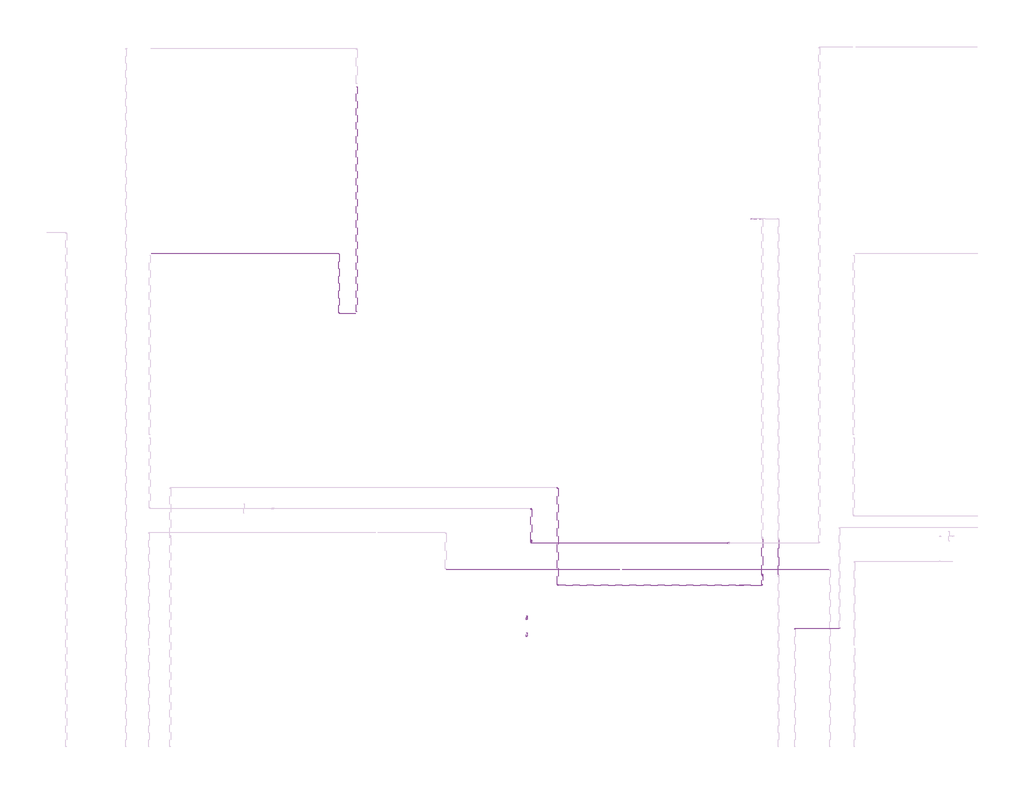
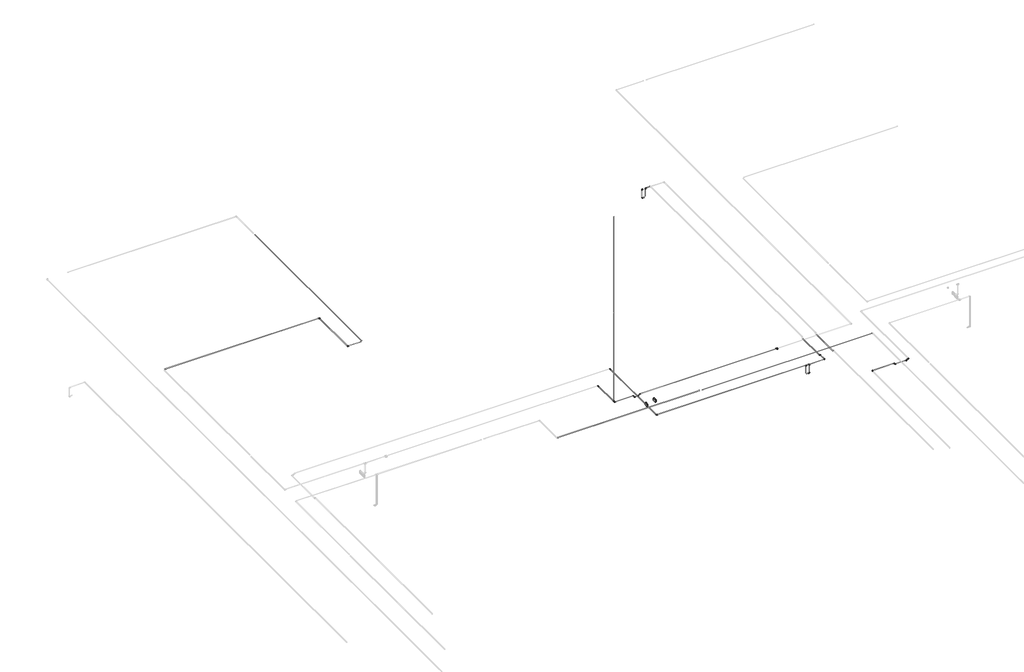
# One storey, part 3 of 6: 35 cable carrier segments, 26 cable carrier fittings, 2 alarms, 2 proxies.
"""IFC4 building model written with IfcOpenShell, lengths in millimetres."""

from ifc_helpers import new_model, si_unit, point, frame, frame_2d, origin, place, context, project, spatial, circle_curve, trimmed, segment, composite_curve, outline, extrude, transform, mapped, element, save
from components import alarm_a2247946, alarm_76d4db1c, electrical_equipment_8cd67339, electrical_equipment_0a952487, cable_carrier_fitting_69f1a801, cable_carrier_fitting_8122f9af, cable_carrier_fitting_8fd13dfc

model = new_model("IFC4")

# Units and contexts
model_context = context("Model", 3, world=origin())
ifc_project = project(units=[si_unit("LENGTHUNIT", "METRE", prefix="MILLI")], contexts=[model_context])

# Site, building, storey
site = spatial("IfcSite", under=ifc_project)
building = spatial("IfcBuilding", under=site)
storey = spatial("IfcBuildingStorey", under=building, Name="Подвальный этаж", Elevation=-3000.0)

# Alarms
placement = place(None, origin())
alarm_shape = alarm_a2247946(model_context)
element("IfcAlarm", 1, ObjectType="RBZ_ИзоляторШлейфа_Рубеж_ИЗ-1_прот.R3(плоскость) : ИЗ-1 прот.R3", at=placement, inside=storey, context=model_context, shape_type="MappedRepresentation", body=[
    mapped(alarm_shape, transform((-16957.3240021, 4133.1922381, -299.95), x_axis=(1.0, 0.0, 0.0), y_axis=(0.0, 1.0, 0.0), z_axis=(0.0, 0.0, 1.0))),
])
alarm_2_shape = alarm_76d4db1c(model_context)
element("IfcAlarm", 2, ObjectType="RBZ_Программное обеспечение_Рубеж_FireSec_ОперативнаяЗадача : ПО ОПС «FireSec» Оперативная задача", at=placement, inside=storey, context=model_context, shape_type="MappedRepresentation", body=[
    mapped(alarm_2_shape, transform((-23156.5757406, 1855.147074, 1041.929482), x_axis=(0.0, 1.0, 0.0), y_axis=(0.0, 0.0, 1.0), z_axis=(1.0, 0.0, 0.0))),
])

# Proxies
electrical_equipment_shape = electrical_equipment_8cd67339(model_context)
element("IfcBuildingElementProxy", 3, Name="RBZ_МодульСопряжения_Рубеж_МС-1(2) : МС-1", ObjectType="RBZ_МодульСопряжения_Рубеж_МС-1(2) : МС-1", at=placement, inside=storey, context=model_context, shape_type="MappedRepresentation", body=[
    mapped(electrical_equipment_shape, transform((-23172.3240021, 1840.019318, 999.7917435), x_axis=(0.0, -1.0, 0.0), y_axis=(1.0, 0.0, 0.0), z_axis=(0.0, 0.0, 1.0))),
])
electrical_equipment_2_shape = electrical_equipment_0a952487(model_context)
element("IfcBuildingElementProxy", 4, Name="RBZ_МодульРелейный_Рубеж_РМ-1(1С;4) _прот.R3 : РМ-4 прот. R3", ObjectType="RBZ_МодульРелейный_Рубеж_РМ-1(1С;4) _прот.R3 : РМ-4 прот. R3", at=placement, inside=storey, context=model_context, shape_type="MappedRepresentation", body=[
    mapped(electrical_equipment_2_shape, transform((-23172.3240021, 1310.269318, 1495.0004776), x_axis=(0.0, -1.0, 0.0), y_axis=(1.0, 0.0, 0.0), z_axis=(0.0, 0.0, 1.0))),
])

# Cable carrier fittings
cable_carrier_fitting_shape = cable_carrier_fitting_69f1a801(model_context)
element("IfcCableCarrierFitting", 5, ObjectType="ADSK_Поворот_Минимальный размер : Неспецифицируемый", at=placement, inside=storey, context=model_context, shape_type="MappedRepresentation", body=[
    mapped(cable_carrier_fitting_shape, transform((-28918.8240021, 13022.1370105, -310.7), x_axis=(0.0, 1.0, 0.0), y_axis=(-1.0, 0.0, 0.0), z_axis=(0.0, 0.0, 1.0))),
])
element("IfcCableCarrierFitting", 6, ObjectType="ADSK_Поворот_Минимальный размер : Неспецифицируемый", at=placement, inside=storey, context=model_context, shape_type="MappedRepresentation", body=[
    mapped(cable_carrier_fitting_shape, transform((-28918.8240021, 11184.6000551, -310.7), x_axis=(0.0, -1.0, 0.0), y_axis=(1.0, 0.0, 0.0), z_axis=(0.0, 0.0, 1.0))),
])
element("IfcCableCarrierFitting", 7, ObjectType="ADSK_Поворот_Минимальный размер : Неспецифицируемый", at=placement, inside=storey, context=model_context, shape_type="MappedRepresentation", body=[
    mapped(cable_carrier_fitting_shape, transform((-16495.1241965, 2838.3020959, -655.9740066), x_axis=(1.0, 0.0, 0.0), y_axis=(0.0, 0.0, 1.0), z_axis=(0.0, -1.0, 0.0))),
])
element("IfcCableCarrierFitting", 8, ObjectType="ADSK_Поворот_Минимальный размер : Неспецифицируемый", at=placement, inside=storey, context=model_context, shape_type="MappedRepresentation", body=[
    mapped(cable_carrier_fitting_shape, transform((-16495.1241965, 2838.3020959, -310.7), x_axis=(0.0, 0.0, 1.0), y_axis=(-1.0, 0.0, 0.0), z_axis=(0.0, -1.0, 0.0))),
])
element("IfcCableCarrierFitting", 9, ObjectType="ADSK_Поворот_Минимальный размер : Неспецифицируемый", at=placement, inside=storey, context=model_context, shape_type="MappedRepresentation", body=[
    mapped(cable_carrier_fitting_shape, transform((-16249.5238077, 14089.6370105, -655.9740066), x_axis=(-1.0, 0.0, 0.0), y_axis=(0.0, 0.0, 1.0), z_axis=(0.0, 1.0, 0.0))),
])
element("IfcCableCarrierFitting", 10, ObjectType="ADSK_Поворот_Минимальный размер : Неспецифицируемый", at=placement, inside=storey, context=model_context, shape_type="MappedRepresentation", body=[
    mapped(cable_carrier_fitting_shape, transform((-16249.5238077, 14089.6370105, -310.7), x_axis=(0.0, 0.0, 1.0), y_axis=(1.0, 0.0, 0.0), z_axis=(0.0, 1.0, 0.0))),
])
element("IfcCableCarrierFitting", 11, ObjectType="ADSK_Поворот_Минимальный размер : Неспецифицируемый", at=placement, inside=storey, context=model_context, shape_type="MappedRepresentation", body=[
    mapped(cable_carrier_fitting_shape, transform((-16121.6725748, 14089.6370105, -310.7), x_axis=(0.0, 0.0, 1.0), y_axis=(1.0, 0.0, 0.0), z_axis=(0.0, 1.0, 0.0))),
])
element("IfcCableCarrierFitting", 12, ObjectType="ADSK_Поворот_Минимальный размер : Неспецифицируемый", at=placement, inside=storey, context=model_context, shape_type="MappedRepresentation", body=[
    mapped(cable_carrier_fitting_shape, transform((-16622.9754294, 2838.3020959, -310.7), x_axis=(0.0, 0.0, 1.0), y_axis=(1.0, 0.0, 0.0), z_axis=(0.0, 1.0, 0.0))),
])
element("IfcCableCarrierFitting", 13, ObjectType="ADSK_Поворот_Минимальный размер : Неспецифицируемый", at=placement, inside=storey, context=model_context, shape_type="MappedRepresentation", body=[
    mapped(cable_carrier_fitting_shape, transform((-15921.6725748, 2838.3020959, -310.7), x_axis=(1.0, 0.0, 0.0), y_axis=(0.0, 1.0, 0.0), z_axis=(0.0, 0.0, 1.0))),
])
element("IfcCableCarrierFitting", 14, ObjectType="ADSK_Поворот_Минимальный размер : Неспецифицируемый", at=placement, inside=storey, context=model_context, shape_type="MappedRepresentation", body=[
    mapped(cable_carrier_fitting_shape, transform((-13552.3240021, 1504.6370105, -310.7), x_axis=(1.0, 0.0, 0.0), y_axis=(0.0, 1.0, 0.0), z_axis=(0.0, 0.0, 1.0))),
])
element("IfcCableCarrierFitting", 15, ObjectType="ADSK_Поворот_Минимальный размер : Неспецифицируемый", at=placement, inside=storey, context=model_context, shape_type="MappedRepresentation", body=[
    mapped(cable_carrier_fitting_shape, transform((-14921.6240021, 1504.6370105, -310.7), x_axis=(-1.0, 0.0, 0.0), y_axis=(0.0, -1.0, 0.0), z_axis=(0.0, 0.0, 1.0))),
])
element("IfcCableCarrierFitting", 16, ObjectType="ADSK_Поворот_Минимальный размер : Неспецифицируемый", at=placement, inside=storey, context=model_context, shape_type="MappedRepresentation", body=[
    mapped(cable_carrier_fitting_shape, transform((-23017.3240021, 4133.1922381, -310.7), x_axis=(0.0, -1.0, 0.0), y_axis=(1.0, 0.0, 0.0), z_axis=(0.0, 0.0, 1.0))),
])
element("IfcCableCarrierFitting", 17, ObjectType="ADSK_Поворот_Минимальный размер : Неспецифицируемый", at=placement, inside=storey, context=model_context, shape_type="MappedRepresentation", body=[
    mapped(cable_carrier_fitting_shape, transform((-23017.3240021, 5194.6370105, -310.7), x_axis=(0.0, 1.0, 0.0), y_axis=(-1.0, 0.0, 0.0), z_axis=(0.0, 0.0, 1.0))),
])
element("IfcCableCarrierFitting", 18, ObjectType="ADSK_Поворот_Минимальный размер : Неспецифицируемый", at=placement, inside=storey, context=model_context, shape_type="MappedRepresentation", body=[
    mapped(cable_carrier_fitting_shape, transform((-22202.3240021, 2838.3020959, -310.7), x_axis=(0.0, -1.0, 0.0), y_axis=(1.0, 0.0, 0.0), z_axis=(0.0, 0.0, 1.0))),
])
element("IfcCableCarrierFitting", 19, ObjectType="ADSK_Поворот_Минимальный размер : Неспецифицируемый", at=placement, inside=storey, context=model_context, shape_type="MappedRepresentation", body=[
    mapped(cable_carrier_fitting_shape, transform((-22202.3240021, 5834.6370105, -310.7), x_axis=(0.0, 1.0, 0.0), y_axis=(-1.0, 0.0, 0.0), z_axis=(0.0, 0.0, 1.0))),
])
cable_carrier_fitting_2_shape = cable_carrier_fitting_8122f9af(model_context)
element("IfcCableCarrierFitting", 20, ObjectType="ADSK_Поворот_Минимальный размер : Неспецифицируемый", at=placement, inside=storey, context=model_context, shape_type="MappedRepresentation", body=[
    mapped(cable_carrier_fitting_2_shape, transform((-15921.6725748, 3169.6370105, -350.0), x_axis=(0.0, -1.0, 0.0), y_axis=(0.0, 0.0, 1.0), z_axis=(-1.0, 0.0, 0.0))),
])
element("IfcCableCarrierFitting", 21, ObjectType="ADSK_Поворот_Минимальный размер : Неспецифицируемый", at=placement, inside=storey, context=model_context, shape_type="MappedRepresentation", body=[
    mapped(cable_carrier_fitting_2_shape, transform((-15921.6725748, 3130.3370105, -310.7), x_axis=(0.0, -0.7071067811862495, 0.7071067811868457), y_axis=(0.0, -0.7071067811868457, -0.7071067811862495), z_axis=(1.0, 0.0, 0.0))),
])
element("IfcCableCarrierFitting", 22, ObjectType="ADSK_Поворот_Минимальный размер : Неспецифицируемый", at=placement, inside=storey, context=model_context, shape_type="MappedRepresentation", body=[
    mapped(cable_carrier_fitting_2_shape, transform((-13604.4038077, 1504.6370105, -310.7), x_axis=(-1.0, 0.0, 0.0), y_axis=(0.0, 0.0, -1.0), z_axis=(0.0, -1.0, 0.0))),
])
element("IfcCableCarrierFitting", 23, ObjectType="ADSK_Поворот_Минимальный размер : Неспецифицируемый", at=placement, inside=storey, context=model_context, shape_type="MappedRepresentation", body=[
    mapped(cable_carrier_fitting_2_shape, transform((-13643.7038077, 1504.6370105, -350.0), x_axis=(-0.707106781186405, 0.0, -0.7071067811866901), y_axis=(-0.7071067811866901, 0.0, 0.707106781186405), z_axis=(0.0, 1.0, 0.0))),
])
element("IfcCableCarrierFitting", 24, ObjectType="ADSK_Поворот_Минимальный размер : Неспецифицируемый", at=placement, inside=storey, context=model_context, shape_type="MappedRepresentation", body=[
    mapped(cable_carrier_fitting_2_shape, transform((-14052.3240021, 1504.6370105, -350.0), x_axis=(-1.0, 0.0, 0.0), y_axis=(0.0, 0.0, 1.0), z_axis=(0.0, 1.0, 0.0))),
])
element("IfcCableCarrierFitting", 25, ObjectType="ADSK_Поворот_Минимальный размер : Неспецифицируемый", at=placement, inside=storey, context=model_context, shape_type="MappedRepresentation", body=[
    mapped(cable_carrier_fitting_2_shape, transform((-14091.6240021, 1504.6370105, -310.7), x_axis=(-0.7071067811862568, 0.0, 0.7071067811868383), y_axis=(-0.7071067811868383, 0.0, -0.7071067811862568), z_axis=(0.0, -1.0, 0.0))),
])
element("IfcCableCarrierFitting", 26, ObjectType="ADSK_Поворот_Минимальный размер : Неспецифицируемый", at=placement, inside=storey, context=model_context, shape_type="MappedRepresentation", body=[
    mapped(cable_carrier_fitting_2_shape, transform((-22085.7517309, 4133.1922381, -310.7), x_axis=(-1.0, 0.0, 0.0), y_axis=(0.0, 0.0, -1.0), z_axis=(0.0, -1.0, 0.0))),
])
element("IfcCableCarrierFitting", 27, ObjectType="ADSK_Поворот_Минимальный размер : Неспецифицируемый", at=placement, inside=storey, context=model_context, shape_type="MappedRepresentation", body=[
    mapped(cable_carrier_fitting_2_shape, transform((-22135.7517309, 4133.1922381, -360.7), x_axis=(-0.7071067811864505, 0.0, -0.7071067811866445), y_axis=(-0.7071067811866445, 0.0, 0.7071067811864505), z_axis=(0.0, 1.0, 0.0))),
])
element("IfcCableCarrierFitting", 28, ObjectType="ADSK_Поворот_Минимальный размер : Неспецифицируемый", at=placement, inside=storey, context=model_context, shape_type="MappedRepresentation", body=[
    mapped(cable_carrier_fitting_2_shape, transform((-22268.8962734, 4133.1922381, -360.7), x_axis=(-1.0, 0.0, 0.0), y_axis=(0.0, 0.0, 1.0), z_axis=(0.0, 1.0, 0.0))),
])
element("IfcCableCarrierFitting", 29, ObjectType="ADSK_Поворот_Минимальный размер : Неспецифицируемый", at=placement, inside=storey, context=model_context, shape_type="MappedRepresentation", body=[
    mapped(cable_carrier_fitting_2_shape, transform((-22318.8962734, 4133.1922381, -310.7), x_axis=(-0.7071067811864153, 0.0, 0.7071067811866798), y_axis=(-0.7071067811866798, 0.0, -0.7071067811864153), z_axis=(0.0, -1.0, 0.0))),
])
cable_carrier_fitting_3_shape = cable_carrier_fitting_8fd13dfc(model_context)
element("IfcCableCarrierFitting", 30, ObjectType="ADSK_Тройник : ПВХ", at=placement, inside=storey, context=model_context, shape_type="MappedRepresentation", body=[
    mapped(cable_carrier_fitting_3_shape, transform((-23017.3240021, 4191.0020779, -310.7), x_axis=(0.0, -1.0, 0.0), y_axis=(0.0, 0.0, -1.0), z_axis=(1.0, 0.0, 0.0))),
])

# Cable carrier segments
element("IfcCableCarrierSegment", 31, ObjectType="Гофрированная труба", at=placement, inside=storey, context=model_context, shape_type="SweptSolid", body=[
    extrude(outline(composite_curve([segment(trimmed(circle_curve(frame_2d((-310.7, -28372.3240021)), 10.0), [point((-310.7, -28362.3240021))], [point((-300.7, -28372.3240021))], False, "CARTESIAN"), True, "CONTINUOUS"), segment(trimmed(circle_curve(frame_2d((-310.7, -28372.3240021)), 10.0), [point((-300.7, -28372.3240021))], [point((-310.7, -28382.3240021))], False, "CARTESIAN"), True, "CONTINUOUS"), segment(trimmed(circle_curve(frame_2d((-310.7, -28372.3240021)), 10.0), [point((-310.7, -28382.3240021))], [point((-320.7, -28372.3240021))], False, "CARTESIAN"), True, "CONTINUOUS"), segment(trimmed(circle_curve(frame_2d((-310.7, -28372.3240021)), 10.0), [point((-320.7, -28372.3240021))], [point((-310.7, -28362.3240021))], False, "CARTESIAN"), True, "CONTINUOUS")], self_intersect=False)), frame((0.0, 11231.1000551, 0.0), z_axis=(0.0, 1.0, 0.0), x_axis=(0.0, 0.0, 1.0)), (0.0, 0.0, 1.0), 6907.0),
])
element("IfcCableCarrierSegment", 32, ObjectType="Гофрированная труба", at=placement, inside=storey, context=model_context, shape_type="SweptSolid", body=[
    extrude(outline(composite_curve([segment(trimmed(circle_curve(frame_2d((11184.6000551, -310.7)), 10.0), [point((11174.6000551, -310.7))], [point((11184.6000551, -300.7))], False, "CARTESIAN"), True, "CONTINUOUS"), segment(trimmed(circle_curve(frame_2d((11184.6000551, -310.7)), 10.0), [point((11184.6000551, -300.7))], [point((11194.6000551, -310.7))], False, "CARTESIAN"), True, "CONTINUOUS"), segment(trimmed(circle_curve(frame_2d((11184.6000551, -310.7)), 10.0), [point((11194.6000551, -310.7))], [point((11184.6000551, -320.7))], False, "CARTESIAN"), True, "CONTINUOUS"), segment(trimmed(circle_curve(frame_2d((11184.6000551, -310.7)), 10.0), [point((11184.6000551, -320.7))], [point((11174.6000551, -310.7))], False, "CARTESIAN"), True, "CONTINUOUS")], self_intersect=False)), frame((-28897.8240021, 0.0, 0.0), z_axis=(1.0, 0.0, 0.0), x_axis=(0.0, 1.0, 0.0)), (0.0, 0.0, 1.0), 479.0),
])
element("IfcCableCarrierSegment", 33, ObjectType="Гофрированная труба", at=placement, inside=storey, context=model_context, shape_type="SweptSolid", body=[
    extrude(outline(composite_curve([segment(trimmed(circle_curve(frame_2d((-310.7, -28918.8240021)), 10.0), [point((-310.7, -28928.8240021))], [point((-320.7, -28918.8240021))], False, "CARTESIAN"), True, "CONTINUOUS"), segment(trimmed(circle_curve(frame_2d((-310.7, -28918.8240021)), 10.0), [point((-320.7, -28918.8240021))], [point((-310.7, -28908.8240021))], False, "CARTESIAN"), True, "CONTINUOUS"), segment(trimmed(circle_curve(frame_2d((-310.7, -28918.8240021)), 10.0), [point((-310.7, -28908.8240021))], [point((-300.7, -28918.8240021))], False, "CARTESIAN"), True, "CONTINUOUS"), segment(trimmed(circle_curve(frame_2d((-310.7, -28918.8240021)), 10.0), [point((-300.7, -28918.8240021))], [point((-310.7, -28928.8240021))], False, "CARTESIAN"), True, "CONTINUOUS")], self_intersect=False)), frame((0.0, 11205.6000551, 0.0), z_axis=(0.0, 1.0, 0.0), x_axis=(0.0, 0.0, 1.0)), (0.0, 0.0, 1.0), 1795.5369555),
])
element("IfcCableCarrierSegment", 34, ObjectType="Гофрированная труба", at=placement, inside=storey, context=model_context, shape_type="SweptSolid", body=[
    extrude(outline(composite_curve([segment(trimmed(circle_curve(frame_2d((13022.1370105, -310.7)), 10.0), [point((13032.1370105, -310.7))], [point((13022.1370105, -320.7))], False, "CARTESIAN"), True, "CONTINUOUS"), segment(trimmed(circle_curve(frame_2d((13022.1370105, -310.7)), 10.0), [point((13022.1370105, -320.7))], [point((13012.1370105, -310.7))], False, "CARTESIAN"), True, "CONTINUOUS"), segment(trimmed(circle_curve(frame_2d((13022.1370105, -310.7)), 10.0), [point((13012.1370105, -310.7))], [point((13022.1370105, -300.7))], False, "CARTESIAN"), True, "CONTINUOUS"), segment(trimmed(circle_curve(frame_2d((13022.1370105, -310.7)), 10.0), [point((13022.1370105, -300.7))], [point((13032.1370105, -310.7))], False, "CARTESIAN"), True, "CONTINUOUS")], self_intersect=False)), frame((-34685.8240021, 0.0, 0.0), z_axis=(1.0, 0.0, 0.0), x_axis=(0.0, 1.0, 0.0)), (0.0, 0.0, 1.0), 5746.0),
])
element("IfcCableCarrierSegment", 35, ObjectType="Гофрированная труба", at=placement, inside=storey, context=model_context, shape_type="SweptSolid", body=[
    extrude(outline(composite_curve([segment(trimmed(circle_curve(frame_2d((-310.7, -23017.3240021)), 10.0), [point((-310.7, -23007.3240021))], [point((-300.7, -23017.3240021))], False, "CARTESIAN"), True, "CONTINUOUS"), segment(trimmed(circle_curve(frame_2d((-310.7, -23017.3240021)), 10.0), [point((-300.7, -23017.3240021))], [point((-310.7, -23027.3240021))], False, "CARTESIAN"), True, "CONTINUOUS"), segment(trimmed(circle_curve(frame_2d((-310.7, -23017.3240021)), 10.0), [point((-310.7, -23027.3240021))], [point((-320.7, -23017.3240021))], False, "CARTESIAN"), True, "CONTINUOUS"), segment(trimmed(circle_curve(frame_2d((-310.7, -23017.3240021)), 10.0), [point((-320.7, -23017.3240021))], [point((-310.7, -23007.3240021))], False, "CARTESIAN"), True, "CONTINUOUS")], self_intersect=False)), frame((0.0, 4221.0020779, 0.0), z_axis=(0.0, 1.0, 0.0), x_axis=(0.0, 0.0, 1.0)), (0.0, 0.0, 1.0), 952.6349327),
])
element("IfcCableCarrierSegment", 36, ObjectType="Гофрированная труба", at=placement, inside=storey, context=model_context, shape_type="SweptSolid", body=[
    extrude(outline(composite_curve([segment(trimmed(circle_curve(frame_2d((4133.1922381, -360.7)), 10.0), [point((4143.1922381, -360.7))], [point((4133.1922381, -370.7))], False, "CARTESIAN"), True, "CONTINUOUS"), segment(trimmed(circle_curve(frame_2d((4133.1922381, -360.7)), 10.0), [point((4133.1922381, -370.7))], [point((4123.1922381, -360.7))], False, "CARTESIAN"), True, "CONTINUOUS"), segment(trimmed(circle_curve(frame_2d((4133.1922381, -360.7)), 10.0), [point((4123.1922381, -360.7))], [point((4133.1922381, -350.7))], False, "CARTESIAN"), True, "CONTINUOUS"), segment(trimmed(circle_curve(frame_2d((4133.1922381, -360.7)), 10.0), [point((4133.1922381, -350.7))], [point((4143.1922381, -360.7))], False, "CARTESIAN"), True, "CONTINUOUS")], self_intersect=False)), frame((-22259.6120021, 0.0, 0.0), z_axis=(1.0, 0.0, 0.0), x_axis=(0.0, 1.0, 0.0)), (0.0, 0.0, 1.0), 114.576),
])
element("IfcCableCarrierSegment", 37, ObjectType="Гофрированная труба", at=placement, inside=storey, context=model_context, shape_type="SweptSolid", body=[
    extrude(outline(composite_curve([segment(trimmed(circle_curve(frame_2d((3324.6370105, -310.7)), 10.0), [point((3314.6370105, -310.7))], [point((3324.6370105, -300.7))], False, "CARTESIAN"), True, "CONTINUOUS"), segment(trimmed(circle_curve(frame_2d((3324.6370105, -310.7)), 10.0), [point((3324.6370105, -300.7))], [point((3334.6370105, -310.7))], False, "CARTESIAN"), True, "CONTINUOUS"), segment(trimmed(circle_curve(frame_2d((3324.6370105, -310.7)), 10.0), [point((3334.6370105, -310.7))], [point((3324.6370105, -320.7))], False, "CARTESIAN"), True, "CONTINUOUS"), segment(trimmed(circle_curve(frame_2d((3324.6370105, -310.7)), 10.0), [point((3324.6370105, -320.7))], [point((3314.6370105, -310.7))], False, "CARTESIAN"), True, "CONTINUOUS")], self_intersect=False)), frame((-25618.8240021, 0.0, 0.0), z_axis=(1.0, 0.0, 0.0), x_axis=(0.0, 1.0, 0.0)), (0.0, 0.0, 1.0), 5310.0),
])
element("IfcCableCarrierSegment", 38, ObjectType="Гофрированная труба", at=placement, inside=storey, context=model_context, shape_type="SweptSolid", body=[
    extrude(outline(composite_curve([segment(trimmed(circle_curve(frame_2d((3324.6370105, -310.7)), 10.0), [point((3334.6370105, -310.7))], [point((3324.6370105, -320.7))], False, "CARTESIAN"), True, "CONTINUOUS"), segment(trimmed(circle_curve(frame_2d((3324.6370105, -310.7)), 10.0), [point((3324.6370105, -320.7))], [point((3314.6370105, -310.7))], False, "CARTESIAN"), True, "CONTINUOUS"), segment(trimmed(circle_curve(frame_2d((3324.6370105, -310.7)), 10.0), [point((3314.6370105, -310.7))], [point((3324.6370105, -300.7))], False, "CARTESIAN"), True, "CONTINUOUS"), segment(trimmed(circle_curve(frame_2d((3324.6370105, -310.7)), 10.0), [point((3324.6370105, -300.7))], [point((3334.6370105, -310.7))], False, "CARTESIAN"), True, "CONTINUOUS")], self_intersect=False)), frame((-20215.8240021, 0.0, 0.0), z_axis=(1.0, 0.0, 0.0), x_axis=(0.0, 1.0, 0.0)), (0.0, 0.0, 1.0), 6352.5),
])
element("IfcCableCarrierSegment", 39, ObjectType="Гофрированная труба", at=placement, inside=storey, context=model_context, shape_type="SweptSolid", body=[
    extrude(outline(composite_curve([segment(trimmed(circle_curve(frame_2d((2838.3020959, -310.7)), 10.0), [point((2848.3020959, -310.7))], [point((2838.3020959, -320.7))], False, "CARTESIAN"), True, "CONTINUOUS"), segment(trimmed(circle_curve(frame_2d((2838.3020959, -310.7)), 10.0), [point((2838.3020959, -320.7))], [point((2828.3020959, -310.7))], False, "CARTESIAN"), True, "CONTINUOUS"), segment(trimmed(circle_curve(frame_2d((2838.3020959, -310.7)), 10.0), [point((2828.3020959, -310.7))], [point((2838.3020959, -300.7))], False, "CARTESIAN"), True, "CONTINUOUS"), segment(trimmed(circle_curve(frame_2d((2838.3020959, -310.7)), 10.0), [point((2838.3020959, -300.7))], [point((2848.3020959, -310.7))], False, "CARTESIAN"), True, "CONTINUOUS")], self_intersect=False)), frame((-22181.3240021, 0.0, 0.0), z_axis=(1.0, 0.0, 0.0), x_axis=(0.0, 1.0, 0.0)), (0.0, 0.0, 1.0), 5665.1998056),
])
element("IfcCableCarrierSegment", 40, ObjectType="Гофрированная труба", at=placement, inside=storey, context=model_context, shape_type="SweptSolid", body=[
    extrude(outline(composite_curve([segment(trimmed(circle_curve(frame_2d((2838.3020959, -655.9740066)), 10.0), [point((2828.3020959, -655.9740066))], [point((2838.3020959, -645.9740066))], False, "CARTESIAN"), True, "CONTINUOUS"), segment(trimmed(circle_curve(frame_2d((2838.3020959, -655.9740066)), 10.0), [point((2838.3020959, -645.9740066))], [point((2848.3020959, -655.9740066))], False, "CARTESIAN"), True, "CONTINUOUS"), segment(trimmed(circle_curve(frame_2d((2838.3020959, -655.9740066)), 10.0), [point((2848.3020959, -655.9740066))], [point((2838.3020959, -665.9740066))], False, "CARTESIAN"), True, "CONTINUOUS"), segment(trimmed(circle_curve(frame_2d((2838.3020959, -655.9740066)), 10.0), [point((2838.3020959, -665.9740066))], [point((2828.3020959, -655.9740066))], False, "CARTESIAN"), True, "CONTINUOUS")], self_intersect=False)), frame((-16592.3240021, 0.0, 0.0), z_axis=(1.0, 0.0, 0.0), x_axis=(0.0, 1.0, 0.0)), (0.0, 0.0, 1.0), 76.1998056),
])
element("IfcCableCarrierSegment", 41, ObjectType="Гофрированная труба", at=placement, inside=storey, context=model_context, shape_type="SweptSolid", body=[
    extrude(outline(composite_curve([segment(trimmed(circle_curve(frame_2d((-16495.1241965, 2838.3020959)), 10.0), [point((-16505.1241965, 2838.3020959))], [point((-16495.1241965, 2848.3020959))], False, "CARTESIAN"), True, "CONTINUOUS"), segment(trimmed(circle_curve(frame_2d((-16495.1241965, 2838.3020959)), 10.0), [point((-16495.1241965, 2848.3020959))], [point((-16485.1241965, 2838.3020959))], False, "CARTESIAN"), True, "CONTINUOUS"), segment(trimmed(circle_curve(frame_2d((-16495.1241965, 2838.3020959)), 10.0), [point((-16485.1241965, 2838.3020959))], [point((-16495.1241965, 2828.3020959))], False, "CARTESIAN"), True, "CONTINUOUS"), segment(trimmed(circle_curve(frame_2d((-16495.1241965, 2838.3020959)), 10.0), [point((-16495.1241965, 2828.3020959))], [point((-16505.1241965, 2838.3020959))], False, "CARTESIAN"), True, "CONTINUOUS")], self_intersect=False)), frame((0.0, 0.0, -634.9740066), z_axis=(0.0, 0.0, 1.0), x_axis=(1.0, 0.0, 0.0)), (0.0, 0.0, 1.0), 303.2740066),
])
element("IfcCableCarrierSegment", 42, ObjectType="Гофрированная труба", at=placement, inside=storey, context=model_context, shape_type="SweptSolid", body=[
    extrude(outline(composite_curve([segment(trimmed(circle_curve(frame_2d((-310.7, -22202.3240021)), 10.0), [point((-310.7, -22192.3240021))], [point((-300.7, -22202.3240021))], False, "CARTESIAN"), True, "CONTINUOUS"), segment(trimmed(circle_curve(frame_2d((-310.7, -22202.3240021)), 10.0), [point((-300.7, -22202.3240021))], [point((-310.7, -22212.3240021))], False, "CARTESIAN"), True, "CONTINUOUS"), segment(trimmed(circle_curve(frame_2d((-310.7, -22202.3240021)), 10.0), [point((-310.7, -22212.3240021))], [point((-320.7, -22202.3240021))], False, "CARTESIAN"), True, "CONTINUOUS"), segment(trimmed(circle_curve(frame_2d((-310.7, -22202.3240021)), 10.0), [point((-320.7, -22202.3240021))], [point((-310.7, -22192.3240021))], False, "CARTESIAN"), True, "CONTINUOUS")], self_intersect=False)), frame((0.0, 2859.3020959, 0.0), z_axis=(0.0, 1.0, 0.0), x_axis=(0.0, 0.0, 1.0)), (0.0, 0.0, 1.0), 2954.3349146),
])
element("IfcCableCarrierSegment", 43, ObjectType="Гофрированная труба", at=placement, inside=storey, context=model_context, shape_type="SweptSolid", body=[
    extrude(outline(composite_curve([segment(trimmed(circle_curve(frame_2d((14089.6370105, -655.9740066)), 10.0), [point((14099.6370105, -655.9740066))], [point((14089.6370105, -665.9740066))], False, "CARTESIAN"), True, "CONTINUOUS"), segment(trimmed(circle_curve(frame_2d((14089.6370105, -655.9740066)), 10.0), [point((14089.6370105, -665.9740066))], [point((14079.6370105, -655.9740066))], False, "CARTESIAN"), True, "CONTINUOUS"), segment(trimmed(circle_curve(frame_2d((14089.6370105, -655.9740066)), 10.0), [point((14079.6370105, -655.9740066))], [point((14089.6370105, -645.9740066))], False, "CARTESIAN"), True, "CONTINUOUS"), segment(trimmed(circle_curve(frame_2d((14089.6370105, -655.9740066)), 10.0), [point((14089.6370105, -645.9740066))], [point((14099.6370105, -655.9740066))], False, "CARTESIAN"), True, "CONTINUOUS")], self_intersect=False)), frame((-16228.5238077, 0.0, 0.0), z_axis=(1.0, 0.0, 0.0), x_axis=(0.0, 1.0, 0.0)), (0.0, 0.0, 1.0), 76.1998056),
])
element("IfcCableCarrierSegment", 44, ObjectType="Гофрированная труба", at=placement, inside=storey, context=model_context, shape_type="SweptSolid", body=[
    extrude(outline(composite_curve([segment(trimmed(circle_curve(frame_2d((-16249.5238077, 14089.6370105)), 10.0), [point((-16259.5238077, 14089.6370105))], [point((-16249.5238077, 14099.6370105))], False, "CARTESIAN"), True, "CONTINUOUS"), segment(trimmed(circle_curve(frame_2d((-16249.5238077, 14089.6370105)), 10.0), [point((-16249.5238077, 14099.6370105))], [point((-16239.5238077, 14089.6370105))], False, "CARTESIAN"), True, "CONTINUOUS"), segment(trimmed(circle_curve(frame_2d((-16249.5238077, 14089.6370105)), 10.0), [point((-16239.5238077, 14089.6370105))], [point((-16249.5238077, 14079.6370105))], False, "CARTESIAN"), True, "CONTINUOUS"), segment(trimmed(circle_curve(frame_2d((-16249.5238077, 14089.6370105)), 10.0), [point((-16249.5238077, 14079.6370105))], [point((-16259.5238077, 14089.6370105))], False, "CARTESIAN"), True, "CONTINUOUS")], self_intersect=False)), frame((0.0, 0.0, -634.9740066), z_axis=(0.0, 0.0, 1.0), x_axis=(1.0, 0.0, 0.0)), (0.0, 0.0, 1.0), 303.2740066),
])
element("IfcCableCarrierSegment", 45, ObjectType="Гофрированная труба", at=placement, inside=storey, context=model_context, shape_type="SweptSolid", body=[
    extrude(outline(composite_curve([segment(trimmed(circle_curve(frame_2d((14089.6370105, -310.7)), 10.0), [point((14079.6370105, -310.7))], [point((14089.6370105, -300.7))], False, "CARTESIAN"), True, "CONTINUOUS"), segment(trimmed(circle_curve(frame_2d((14089.6370105, -310.7)), 10.0), [point((14089.6370105, -300.7))], [point((14099.6370105, -310.7))], False, "CARTESIAN"), True, "CONTINUOUS"), segment(trimmed(circle_curve(frame_2d((14089.6370105, -310.7)), 10.0), [point((14099.6370105, -310.7))], [point((14089.6370105, -320.7))], False, "CARTESIAN"), True, "CONTINUOUS"), segment(trimmed(circle_curve(frame_2d((14089.6370105, -310.7)), 10.0), [point((14089.6370105, -320.7))], [point((14079.6370105, -310.7))], False, "CARTESIAN"), True, "CONTINUOUS")], self_intersect=False)), frame((-16100.6725748, 0.0, 0.0), z_axis=(1.0, 0.0, 0.0), x_axis=(0.0, 1.0, 0.0)), (0.0, 0.0, 1.0), 158.0),
])
element("IfcCableCarrierSegment", 46, ObjectType="Гофрированная труба", at=placement, inside=storey, context=model_context, shape_type="SweptSolid", body=[
    extrude(outline(composite_curve([segment(trimmed(circle_curve(frame_2d((-16121.6725748, 14089.6370105)), 10.0), [point((-16131.6725748, 14089.6370105))], [point((-16121.6725748, 14099.6370105))], False, "CARTESIAN"), True, "CONTINUOUS"), segment(trimmed(circle_curve(frame_2d((-16121.6725748, 14089.6370105)), 10.0), [point((-16121.6725748, 14099.6370105))], [point((-16111.6725748, 14089.6370105))], False, "CARTESIAN"), True, "CONTINUOUS"), segment(trimmed(circle_curve(frame_2d((-16121.6725748, 14089.6370105)), 10.0), [point((-16111.6725748, 14089.6370105))], [point((-16121.6725748, 14079.6370105))], False, "CARTESIAN"), True, "CONTINUOUS"), segment(trimmed(circle_curve(frame_2d((-16121.6725748, 14089.6370105)), 10.0), [point((-16121.6725748, 14079.6370105))], [point((-16131.6725748, 14089.6370105))], False, "CARTESIAN"), True, "CONTINUOUS")], self_intersect=False)), frame((0.0, 0.0, -611.9740066), z_axis=(0.0, 0.0, 1.0), x_axis=(1.0, 0.0, 0.0)), (0.0, 0.0, 1.0), 280.2740066),
])
element("IfcCableCarrierSegment", 47, ObjectType="Гофрированная труба", at=placement, inside=storey, context=model_context, shape_type="SweptSolid", body=[
    extrude(outline(composite_curve([segment(trimmed(circle_curve(frame_2d((2838.3020959, -310.7)), 10.0), [point((2828.3020959, -310.7))], [point((2838.3020959, -300.7))], False, "CARTESIAN"), True, "CONTINUOUS"), segment(trimmed(circle_curve(frame_2d((2838.3020959, -310.7)), 10.0), [point((2838.3020959, -300.7))], [point((2848.3020959, -310.7))], False, "CARTESIAN"), True, "CONTINUOUS"), segment(trimmed(circle_curve(frame_2d((2838.3020959, -310.7)), 10.0), [point((2848.3020959, -310.7))], [point((2838.3020959, -320.7))], False, "CARTESIAN"), True, "CONTINUOUS"), segment(trimmed(circle_curve(frame_2d((2838.3020959, -310.7)), 10.0), [point((2838.3020959, -320.7))], [point((2828.3020959, -310.7))], False, "CARTESIAN"), True, "CONTINUOUS")], self_intersect=False)), frame((-16601.9754294, 0.0, 0.0), z_axis=(1.0, 0.0, 0.0), x_axis=(0.0, 1.0, 0.0)), (0.0, 0.0, 1.0), 659.3028546),
])
element("IfcCableCarrierSegment", 48, ObjectType="Гофрированная труба", at=placement, inside=storey, context=model_context, shape_type="SweptSolid", body=[
    extrude(outline(composite_curve([segment(trimmed(circle_curve(frame_2d((-16622.9754294, 2838.3020959)), 10.0), [point((-16632.9754294, 2838.3020959))], [point((-16622.9754294, 2848.3020959))], False, "CARTESIAN"), True, "CONTINUOUS"), segment(trimmed(circle_curve(frame_2d((-16622.9754294, 2838.3020959)), 10.0), [point((-16622.9754294, 2848.3020959))], [point((-16612.9754294, 2838.3020959))], False, "CARTESIAN"), True, "CONTINUOUS"), segment(trimmed(circle_curve(frame_2d((-16622.9754294, 2838.3020959)), 10.0), [point((-16612.9754294, 2838.3020959))], [point((-16622.9754294, 2828.3020959))], False, "CARTESIAN"), True, "CONTINUOUS"), segment(trimmed(circle_curve(frame_2d((-16622.9754294, 2838.3020959)), 10.0), [point((-16622.9754294, 2828.3020959))], [point((-16632.9754294, 2838.3020959))], False, "CARTESIAN"), True, "CONTINUOUS")], self_intersect=False)), frame((0.0, 0.0, -611.9740066), z_axis=(0.0, 0.0, 1.0), x_axis=(1.0, 0.0, 0.0)), (0.0, 0.0, 1.0), 280.2740066),
])
element("IfcCableCarrierSegment", 49, ObjectType="Гофрированная труба", at=placement, inside=storey, context=model_context, shape_type="SweptSolid", body=[
    extrude(outline(composite_curve([segment(trimmed(circle_curve(frame_2d((-350.0, -15921.6725748)), 10.0), [point((-350.0, -15931.6725748))], [point((-360.0, -15921.6725748))], False, "CARTESIAN"), True, "CONTINUOUS"), segment(trimmed(circle_curve(frame_2d((-350.0, -15921.6725748)), 10.0), [point((-360.0, -15921.6725748))], [point((-350.0, -15911.6725748))], False, "CARTESIAN"), True, "CONTINUOUS"), segment(trimmed(circle_curve(frame_2d((-350.0, -15921.6725748)), 10.0), [point((-350.0, -15911.6725748))], [point((-340.0, -15921.6725748))], False, "CARTESIAN"), True, "CONTINUOUS"), segment(trimmed(circle_curve(frame_2d((-350.0, -15921.6725748)), 10.0), [point((-340.0, -15921.6725748))], [point((-350.0, -15931.6725748))], False, "CARTESIAN"), True, "CONTINUOUS")], self_intersect=False)), frame((0.0, 3178.9212818, 0.0), z_axis=(0.0, 1.0, 0.0), x_axis=(0.0, 0.0, 1.0)), (0.0, 0.0, 1.0), 1082.1314575),
])
element("IfcCableCarrierSegment", 50, ObjectType="Гофрированная труба", at=placement, inside=storey, context=model_context, shape_type="SweptSolid", body=[
    extrude(outline(composite_curve([segment(trimmed(circle_curve(frame_2d((-310.7, -15921.6725748)), 10.0), [point((-310.7, -15911.6725748))], [point((-300.7, -15921.6725748))], False, "CARTESIAN"), True, "CONTINUOUS"), segment(trimmed(circle_curve(frame_2d((-310.7, -15921.6725748)), 10.0), [point((-300.7, -15921.6725748))], [point((-310.7, -15931.6725748))], False, "CARTESIAN"), True, "CONTINUOUS"), segment(trimmed(circle_curve(frame_2d((-310.7, -15921.6725748)), 10.0), [point((-310.7, -15931.6725748))], [point((-320.7, -15921.6725748))], False, "CARTESIAN"), True, "CONTINUOUS"), segment(trimmed(circle_curve(frame_2d((-310.7, -15921.6725748)), 10.0), [point((-320.7, -15921.6725748))], [point((-310.7, -15911.6725748))], False, "CARTESIAN"), True, "CONTINUOUS")], self_intersect=False)), frame((0.0, 2859.3020959, 0.0), z_axis=(0.0, 1.0, 0.0), x_axis=(0.0, 0.0, 1.0)), (0.0, 0.0, 1.0), 261.7506434),
])
element("IfcCableCarrierSegment", 51, ObjectType="Гофрированная труба", at=placement, inside=storey, context=model_context, shape_type="SweptSolid", body=[
    extrude(outline(composite_curve([segment(trimmed(circle_curve(frame_2d((0.0, 10.0000001)), 10.0), [point((-10.0, 10.0000001))], [point((0.0, 20.0))], False, "CARTESIAN"), True, "CONTINUOUS"), segment(trimmed(circle_curve(frame_2d((0.0, 10.0000001)), 10.0), [point((0.0, 20.0))], [point((10.0, 10.0000001))], False, "CARTESIAN"), True, "CONTINUOUS"), segment(trimmed(circle_curve(frame_2d((0.0, 10.0000001)), 10.0), [point((10.0, 10.0000001))], [point((0.0, 0.0))], False, "CARTESIAN"), True, "CONTINUOUS"), segment(trimmed(circle_curve(frame_2d((0.0, 10.0000001)), 10.0), [point((0.0, 0.0))], [point((-10.0, 10.0000001))], False, "CARTESIAN"), True, "CONTINUOUS")], self_intersect=False)), frame((-15921.6725748, 3156.0009716, -350.5060967), z_axis=(0.0, -0.7071067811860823, 0.7071067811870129), x_axis=(1.0, 0.0, 0.0)), (0.0, 0.0, 1.0), 37.0100505),
])
element("IfcCableCarrierSegment", 52, ObjectType="Гофрированная труба", at=placement, inside=storey, context=model_context, shape_type="SweptSolid", body=[
    extrude(outline(composite_curve([segment(trimmed(circle_curve(frame_2d((-350.0, -15421.6240021)), 10.0), [point((-350.0, -15431.6240021))], [point((-360.0, -15421.6240021))], False, "CARTESIAN"), True, "CONTINUOUS"), segment(trimmed(circle_curve(frame_2d((-350.0, -15421.6240021)), 10.0), [point((-360.0, -15421.6240021))], [point((-350.0, -15411.6240021))], False, "CARTESIAN"), True, "CONTINUOUS"), segment(trimmed(circle_curve(frame_2d((-350.0, -15421.6240021)), 10.0), [point((-350.0, -15411.6240021))], [point((-340.0, -15421.6240021))], False, "CARTESIAN"), True, "CONTINUOUS"), segment(trimmed(circle_curve(frame_2d((-350.0, -15421.6240021)), 10.0), [point((-340.0, -15421.6240021))], [point((-350.0, -15431.6240021))], False, "CARTESIAN"), True, "CONTINUOUS")], self_intersect=False)), frame((0.0, 3158.9212818, 0.0), z_axis=(0.0, 1.0, 0.0), x_axis=(0.0, 0.0, 1.0)), (0.0, 0.0, 1.0), 1082.1314575),
])
element("IfcCableCarrierSegment", 53, ObjectType="Гофрированная труба", at=placement, inside=storey, context=model_context, shape_type="SweptSolid", body=[
    extrude(outline(composite_curve([segment(trimmed(circle_curve(frame_2d((0.0, 10.0000001)), 10.0), [point((-10.0, 10.0000001))], [point((0.0, 20.0))], False, "CARTESIAN"), True, "CONTINUOUS"), segment(trimmed(circle_curve(frame_2d((0.0, 10.0000001)), 10.0), [point((0.0, 20.0))], [point((10.0, 10.0000001))], False, "CARTESIAN"), True, "CONTINUOUS"), segment(trimmed(circle_curve(frame_2d((0.0, 10.0000001)), 10.0), [point((10.0, 10.0000001))], [point((0.0, 0.0))], False, "CARTESIAN"), True, "CONTINUOUS"), segment(trimmed(circle_curve(frame_2d((0.0, 10.0000001)), 10.0), [point((0.0, 0.0))], [point((-10.0, 10.0000001))], False, "CARTESIAN"), True, "CONTINUOUS")], self_intersect=False)), frame((-15421.6240021, 3136.0009716, -350.5060967), z_axis=(0.0, -0.7071067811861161, 0.707106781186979), x_axis=(1.0, 0.0, 0.0)), (0.0, 0.0, 1.0), 37.0100505),
])
element("IfcCableCarrierSegment", 54, ObjectType="Гофрированная труба", at=placement, inside=storey, context=model_context, shape_type="SweptSolid", body=[
    extrude(outline(composite_curve([segment(trimmed(circle_curve(frame_2d((1504.6370105, -350.0)), 10.0), [point((1514.6370105, -350.0))], [point((1504.6370105, -360.0))], False, "CARTESIAN"), True, "CONTINUOUS"), segment(trimmed(circle_curve(frame_2d((1504.6370105, -350.0)), 10.0), [point((1504.6370105, -360.0))], [point((1494.6370105, -350.0))], False, "CARTESIAN"), True, "CONTINUOUS"), segment(trimmed(circle_curve(frame_2d((1504.6370105, -350.0)), 10.0), [point((1494.6370105, -350.0))], [point((1504.6370105, -340.0))], False, "CARTESIAN"), True, "CONTINUOUS"), segment(trimmed(circle_curve(frame_2d((1504.6370105, -350.0)), 10.0), [point((1504.6370105, -340.0))], [point((1514.6370105, -350.0))], False, "CARTESIAN"), True, "CONTINUOUS")], self_intersect=False)), frame((-14043.0397309, 0.0, 0.0), z_axis=(1.0, 0.0, 0.0), x_axis=(0.0, 1.0, 0.0)), (0.0, 0.0, 1.0), 390.0516519),
])
element("IfcCableCarrierSegment", 55, ObjectType="Гофрированная труба", at=placement, inside=storey, context=model_context, shape_type="SweptSolid", body=[
    extrude(outline(composite_curve([segment(trimmed(circle_curve(frame_2d((1504.6370105, -310.7)), 10.0), [point((1514.6370105, -310.7))], [point((1504.6370105, -320.7))], False, "CARTESIAN"), True, "CONTINUOUS"), segment(trimmed(circle_curve(frame_2d((1504.6370105, -310.7)), 10.0), [point((1504.6370105, -320.7))], [point((1494.6370105, -310.7))], False, "CARTESIAN"), True, "CONTINUOUS"), segment(trimmed(circle_curve(frame_2d((1504.6370105, -310.7)), 10.0), [point((1494.6370105, -310.7))], [point((1504.6370105, -300.7))], False, "CARTESIAN"), True, "CONTINUOUS"), segment(trimmed(circle_curve(frame_2d((1504.6370105, -310.7)), 10.0), [point((1504.6370105, -300.7))], [point((1514.6370105, -310.7))], False, "CARTESIAN"), True, "CONTINUOUS")], self_intersect=False)), frame((-13595.1195365, 0.0, 0.0), z_axis=(1.0, 0.0, 0.0), x_axis=(0.0, 1.0, 0.0)), (0.0, 0.0, 1.0), 21.7955344),
])
element("IfcCableCarrierSegment", 56, ObjectType="Гофрированная труба", at=placement, inside=storey, context=model_context, shape_type="SweptSolid", body=[
    extrude(outline(composite_curve([segment(trimmed(circle_curve(frame_2d((0.0, -10.0)), 10.0), [point((0.0, 0.0))], [point((10.0000001, -10.0))], False, "CARTESIAN"), True, "CONTINUOUS"), segment(trimmed(circle_curve(frame_2d((0.0, -10.0)), 10.0), [point((10.0000001, -10.0))], [point((0.0, -20.0))], False, "CARTESIAN"), True, "CONTINUOUS"), segment(trimmed(circle_curve(frame_2d((0.0, -10.0)), 10.0), [point((0.0, -20.0))], [point((-10.0000001, -10.0))], False, "CARTESIAN"), True, "CONTINUOUS"), segment(trimmed(circle_curve(frame_2d((0.0, -10.0)), 10.0), [point((-10.0000001, -10.0))], [point((0.0, 0.0))], False, "CARTESIAN"), True, "CONTINUOUS")], self_intersect=False)), frame((-13637.1388365, 1514.6370105, -343.4350288), z_axis=(0.7071067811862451, 0.0, 0.70710678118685), x_axis=(0.70710678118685, 0.0, -0.7071067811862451)), (0.0, 0.0, 1.0), 37.0100505),
])
element("IfcCableCarrierSegment", 57, ObjectType="Гофрированная труба", at=placement, inside=storey, context=model_context, shape_type="SweptSolid", body=[
    extrude(outline(composite_curve([segment(trimmed(circle_curve(frame_2d((1504.6370105, -310.7)), 10.0), [point((1494.6370105, -310.7))], [point((1504.6370105, -300.7))], False, "CARTESIAN"), True, "CONTINUOUS"), segment(trimmed(circle_curve(frame_2d((1504.6370105, -310.7)), 10.0), [point((1504.6370105, -300.7))], [point((1514.6370105, -310.7))], False, "CARTESIAN"), True, "CONTINUOUS"), segment(trimmed(circle_curve(frame_2d((1504.6370105, -310.7)), 10.0), [point((1514.6370105, -310.7))], [point((1504.6370105, -320.7))], False, "CARTESIAN"), True, "CONTINUOUS"), segment(trimmed(circle_curve(frame_2d((1504.6370105, -310.7)), 10.0), [point((1504.6370105, -320.7))], [point((1494.6370105, -310.7))], False, "CARTESIAN"), True, "CONTINUOUS")], self_intersect=False)), frame((-14900.6240021, 0.0, 0.0), z_axis=(1.0, 0.0, 0.0), x_axis=(0.0, 1.0, 0.0)), (0.0, 0.0, 1.0), 799.7157288),
])
element("IfcCableCarrierSegment", 58, ObjectType="Гофрированная труба", at=placement, inside=storey, context=model_context, shape_type="SweptSolid", body=[
    extrude(outline(composite_curve([segment(trimmed(circle_curve(frame_2d((0.0, 10.0)), 10.0), [point((0.0, 20.0))], [point((10.0000001, 10.0))], False, "CARTESIAN"), True, "CONTINUOUS"), segment(trimmed(circle_curve(frame_2d((0.0, 10.0)), 10.0), [point((10.0000001, 10.0))], [point((0.0, 0.0))], False, "CARTESIAN"), True, "CONTINUOUS"), segment(trimmed(circle_curve(frame_2d((0.0, 10.0)), 10.0), [point((0.0, 0.0))], [point((-10.0000001, 10.0))], False, "CARTESIAN"), True, "CONTINUOUS"), segment(trimmed(circle_curve(frame_2d((0.0, 10.0)), 10.0), [point((-10.0000001, 10.0))], [point((0.0, 20.0))], False, "CARTESIAN"), True, "CONTINUOUS")], self_intersect=False)), frame((-14058.8889733, 1494.6370105, -343.4350288), z_axis=(-0.7071067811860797, 0.0, 0.7071067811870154), x_axis=(0.7071067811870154, 0.0, 0.7071067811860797)), (0.0, 0.0, 1.0), 37.0100505),
])
element("IfcCableCarrierSegment", 59, ObjectType="Гофрированная труба", at=placement, inside=storey, context=model_context, shape_type="SweptSolid", body=[
    extrude(outline(composite_curve([segment(trimmed(circle_curve(frame_2d((-23017.3240021, 4191.0020779)), 10.0), [point((-23007.3240021, 4191.0020779))], [point((-23017.3240021, 4181.0020779))], False, "CARTESIAN"), True, "CONTINUOUS"), segment(trimmed(circle_curve(frame_2d((-23017.3240021, 4191.0020779)), 10.0), [point((-23017.3240021, 4181.0020779))], [point((-23027.3240021, 4191.0020779))], False, "CARTESIAN"), True, "CONTINUOUS"), segment(trimmed(circle_curve(frame_2d((-23017.3240021, 4191.0020779)), 10.0), [point((-23027.3240021, 4191.0020779))], [point((-23017.3240021, 4201.0020779))], False, "CARTESIAN"), True, "CONTINUOUS"), segment(trimmed(circle_curve(frame_2d((-23017.3240021, 4191.0020779)), 10.0), [point((-23017.3240021, 4201.0020779))], [point((-23007.3240021, 4191.0020779))], False, "CARTESIAN"), True, "CONTINUOUS")], self_intersect=False)), frame((0.0, 0.0, -280.7), z_axis=(0.0, 0.0, 1.0), x_axis=(1.0, 0.0, 0.0)), (0.0, 0.0, 1.0), 3437.7),
])
element("IfcCableCarrierSegment", 60, ObjectType="Гофрированная труба", at=placement, inside=storey, context=model_context, shape_type="SweptSolid", body=[
    extrude(outline(composite_curve([segment(trimmed(circle_curve(frame_2d((-310.7, -23017.3240021)), 10.0), [point((-310.7, -23007.3240021))], [point((-300.7, -23017.3240021))], False, "CARTESIAN"), True, "CONTINUOUS"), segment(trimmed(circle_curve(frame_2d((-310.7, -23017.3240021)), 10.0), [point((-300.7, -23017.3240021))], [point((-310.7, -23027.3240021))], False, "CARTESIAN"), True, "CONTINUOUS"), segment(trimmed(circle_curve(frame_2d((-310.7, -23017.3240021)), 10.0), [point((-310.7, -23027.3240021))], [point((-320.7, -23017.3240021))], False, "CARTESIAN"), True, "CONTINUOUS"), segment(trimmed(circle_curve(frame_2d((-310.7, -23017.3240021)), 10.0), [point((-320.7, -23017.3240021))], [point((-310.7, -23007.3240021))], False, "CARTESIAN"), True, "CONTINUOUS")], self_intersect=False)), frame((0.0, 4154.1922381, 0.0), z_axis=(0.0, 1.0, 0.0), x_axis=(0.0, 0.0, 1.0)), (0.0, 0.0, 1.0), 6.8098397),
])
element("IfcCableCarrierSegment", 61, ObjectType="Гофрированная труба", at=placement, inside=storey, context=model_context, shape_type="SweptSolid", body=[
    extrude(outline(composite_curve([segment(trimmed(circle_curve(frame_2d((4133.1922381, -310.7)), 10.0), [point((4143.1922381, -310.7))], [point((4133.1922381, -320.7))], False, "CARTESIAN"), True, "CONTINUOUS"), segment(trimmed(circle_curve(frame_2d((4133.1922381, -310.7)), 10.0), [point((4133.1922381, -320.7))], [point((4123.1922381, -310.7))], False, "CARTESIAN"), True, "CONTINUOUS"), segment(trimmed(circle_curve(frame_2d((4133.1922381, -310.7)), 10.0), [point((4123.1922381, -310.7))], [point((4133.1922381, -300.7))], False, "CARTESIAN"), True, "CONTINUOUS"), segment(trimmed(circle_curve(frame_2d((4133.1922381, -310.7)), 10.0), [point((4133.1922381, -300.7))], [point((4143.1922381, -310.7))], False, "CARTESIAN"), True, "CONTINUOUS")], self_intersect=False)), frame((-22076.4674596, 0.0, 0.0), z_axis=(1.0, 0.0, 0.0), x_axis=(0.0, 1.0, 0.0)), (0.0, 0.0, 1.0), 5093.1434575),
])
element("IfcCableCarrierSegment", 62, ObjectType="Гофрированная труба", at=placement, inside=storey, context=model_context, shape_type="SweptSolid", body=[
    extrude(outline(composite_curve([segment(trimmed(circle_curve(frame_2d((0.0, -10.0)), 10.0), [point((0.0, 0.0))], [point((10.0000001, -10.0))], False, "CARTESIAN"), True, "CONTINUOUS"), segment(trimmed(circle_curve(frame_2d((0.0, -10.0)), 10.0), [point((10.0000001, -10.0))], [point((0.0, -20.0))], False, "CARTESIAN"), True, "CONTINUOUS"), segment(trimmed(circle_curve(frame_2d((0.0, -10.0)), 10.0), [point((0.0, -20.0))], [point((-10.0, -10.0))], False, "CARTESIAN"), True, "CONTINUOUS"), segment(trimmed(circle_curve(frame_2d((0.0, -10.0)), 10.0), [point((-10.0, -10.0))], [point((0.0, 0.0))], False, "CARTESIAN"), True, "CONTINUOUS")], self_intersect=False)), frame((-22129.1867597, 4143.1922381, -354.1350288), z_axis=(0.7071067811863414, 0.0, 0.7071067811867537), x_axis=(0.7071067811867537, 0.0, -0.7071067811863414)), (0.0, 0.0, 1.0), 52.1421356),
])
element("IfcCableCarrierSegment", 63, ObjectType="Гофрированная труба", at=placement, inside=storey, context=model_context, shape_type="SweptSolid", body=[
    extrude(outline(composite_curve([segment(trimmed(circle_curve(frame_2d((4133.1922381, -310.7)), 10.0), [point((4143.1922381, -310.7))], [point((4133.1922381, -320.7))], False, "CARTESIAN"), True, "CONTINUOUS"), segment(trimmed(circle_curve(frame_2d((4133.1922381, -310.7)), 10.0), [point((4133.1922381, -320.7))], [point((4123.1922381, -310.7))], False, "CARTESIAN"), True, "CONTINUOUS"), segment(trimmed(circle_curve(frame_2d((4133.1922381, -310.7)), 10.0), [point((4123.1922381, -310.7))], [point((4133.1922381, -300.7))], False, "CARTESIAN"), True, "CONTINUOUS"), segment(trimmed(circle_curve(frame_2d((4133.1922381, -310.7)), 10.0), [point((4133.1922381, -300.7))], [point((4143.1922381, -310.7))], False, "CARTESIAN"), True, "CONTINUOUS")], self_intersect=False)), frame((-23001.3240021, 0.0, 0.0), z_axis=(1.0, 0.0, 0.0), x_axis=(0.0, 1.0, 0.0)), (0.0, 0.0, 1.0), 673.1434575),
])
element("IfcCableCarrierSegment", 64, ObjectType="Гофрированная труба", at=placement, inside=storey, context=model_context, shape_type="SweptSolid", body=[
    extrude(outline(composite_curve([segment(trimmed(circle_curve(frame_2d((0.0, 10.0)), 10.0), [point((0.0, 20.0))], [point((10.0, 10.0))], False, "CARTESIAN"), True, "CONTINUOUS"), segment(trimmed(circle_curve(frame_2d((0.0, 10.0)), 10.0), [point((10.0, 10.0))], [point((0.0, 0.0))], False, "CARTESIAN"), True, "CONTINUOUS"), segment(trimmed(circle_curve(frame_2d((0.0, 10.0)), 10.0), [point((0.0, 0.0))], [point((-10.0000001, 10.0))], False, "CARTESIAN"), True, "CONTINUOUS"), segment(trimmed(circle_curve(frame_2d((0.0, 10.0)), 10.0), [point((-10.0000001, 10.0))], [point((0.0, 20.0))], False, "CARTESIAN"), True, "CONTINUOUS")], self_intersect=False)), frame((-22275.4612445, 4123.1922381, -354.1350288), z_axis=(-0.7071067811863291, 0.0, 0.7071067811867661), x_axis=(0.7071067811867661, 0.0, 0.7071067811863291)), (0.0, 0.0, 1.0), 52.1421356),
])
element("IfcCableCarrierSegment", 65, ObjectType="Гофрированная труба", at=placement, inside=storey, context=model_context, shape_type="SweptSolid", body=[
    extrude(outline(composite_curve([segment(trimmed(circle_curve(frame_2d((-23017.3240021, 4191.0020779)), 10.0), [point((-23007.3240021, 4191.0020779))], [point((-23017.3240021, 4181.0020779))], False, "CARTESIAN"), True, "CONTINUOUS"), segment(trimmed(circle_curve(frame_2d((-23017.3240021, 4191.0020779)), 10.0), [point((-23017.3240021, 4181.0020779))], [point((-23027.3240021, 4191.0020779))], False, "CARTESIAN"), True, "CONTINUOUS"), segment(trimmed(circle_curve(frame_2d((-23017.3240021, 4191.0020779)), 10.0), [point((-23027.3240021, 4191.0020779))], [point((-23017.3240021, 4201.0020779))], False, "CARTESIAN"), True, "CONTINUOUS"), segment(trimmed(circle_curve(frame_2d((-23017.3240021, 4191.0020779)), 10.0), [point((-23017.3240021, 4201.0020779))], [point((-23007.3240021, 4191.0020779))], False, "CARTESIAN"), True, "CONTINUOUS")], self_intersect=False)), frame((0.0, 0.0, 3217.0), z_axis=(0.0, 0.0, 1.0), x_axis=(1.0, 0.0, 0.0)), (0.0, 0.0, 1.0), 3752.0),
])

save(model, "model.ifc")
